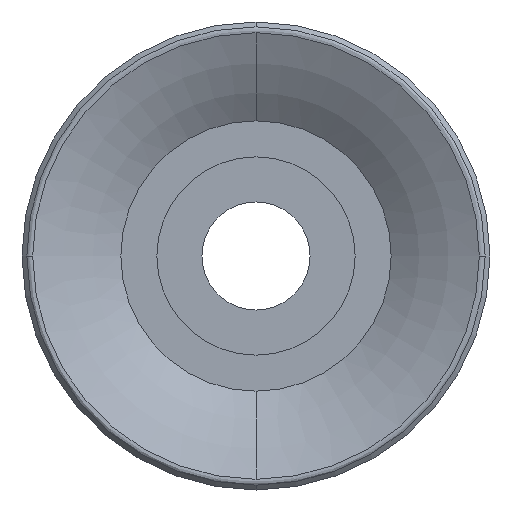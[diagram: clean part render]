
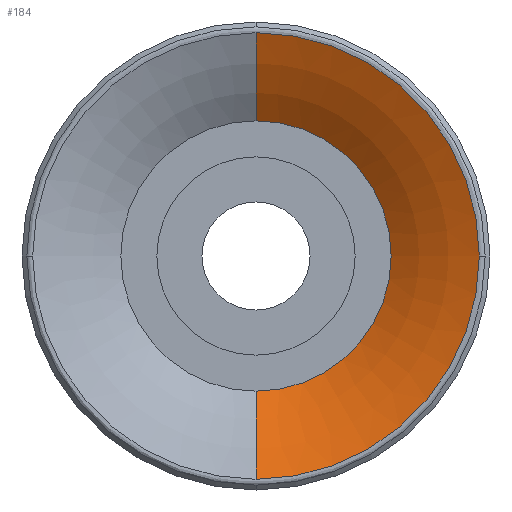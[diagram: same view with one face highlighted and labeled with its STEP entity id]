
A CAD part, front view. The second image highlights one B-rep face of the part: STEP entity #184.
In plain terms, the highlighted toroidal (fillet/blend) face has major radius 20.228 mm and minor radius 21 mm.
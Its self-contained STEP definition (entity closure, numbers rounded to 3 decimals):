
#6 = CARTESIAN_POINT ( 'NONE',  ( 0., -13.978, 0. ) ) ;
#21 = DIRECTION ( 'NONE',  ( -1., 0., 0. ) ) ;
#55 = AXIS2_PLACEMENT_3D ( 'NONE', #619, #21, #614 ) ;
#85 = CARTESIAN_POINT ( 'NONE',  ( 0., -11.2, -7.5 ) ) ;
#136 = AXIS2_PLACEMENT_3D ( 'NONE', #179, #559, #847 ) ;
#148 = CIRCLE ( 'NONE', #453, 7.5 ) ;
#165 = FACE_OUTER_BOUND ( 'NONE', #229, .T. ) ;
#179 = CARTESIAN_POINT ( 'NONE',  ( 0., 5.503, -20.228 ) ) ;
#184 = ADVANCED_FACE ( 'NONE', ( #165 ), #918, .T. ) ;
#185 = CARTESIAN_POINT ( 'NONE',  ( 0., -11.2, 7.5 ) ) ;
#216 = ORIENTED_EDGE ( 'NONE', *, *, #870, .T. ) ;
#229 = EDGE_LOOP ( 'NONE', ( #478, #357, #216, #330, #694 ) ) ;
#245 = EDGE_CURVE ( 'NONE', #555, #393, #148, .T. ) ;
#285 = DIRECTION ( 'NONE',  ( 0., 1., 0. ) ) ;
#304 = AXIS2_PLACEMENT_3D ( 'NONE', #346, #351, #355 ) ;
#313 = DIRECTION ( 'NONE',  ( 0., 0., 1. ) ) ;
#330 = ORIENTED_EDGE ( 'NONE', *, *, #761, .T. ) ;
#346 = CARTESIAN_POINT ( 'NONE',  ( 0., -13.978, 0. ) ) ;
#351 = DIRECTION ( 'NONE',  ( 0., -1., 0. ) ) ;
#355 = DIRECTION ( 'NONE',  ( 0., 0., -1. ) ) ;
#357 = ORIENTED_EDGE ( 'NONE', *, *, #678, .T. ) ;
#393 = VERTEX_POINT ( 'NONE', #85 ) ;
#453 = AXIS2_PLACEMENT_3D ( 'NONE', #672, #547, #739 ) ;
#478 = ORIENTED_EDGE ( 'NONE', *, *, #245, .T. ) ;
#510 = AXIS2_PLACEMENT_3D ( 'NONE', #825, #285, #313 ) ;
#547 = DIRECTION ( 'NONE',  ( 0., 1., 0. ) ) ;
#551 = DIRECTION ( 'NONE',  ( 0., -1., 0. ) ) ;
#555 = VERTEX_POINT ( 'NONE', #185 ) ;
#559 = DIRECTION ( 'NONE',  ( 1., 0., 0. ) ) ;
#614 = DIRECTION ( 'NONE',  ( 0., 0., 1. ) ) ;
#619 = CARTESIAN_POINT ( 'NONE',  ( 0., 5.503, 20.228 ) ) ;
#655 = CIRCLE ( 'NONE', #55, 21. ) ;
#672 = CARTESIAN_POINT ( 'NONE',  ( 0., -11.2, 0. ) ) ;
#678 = EDGE_CURVE ( 'NONE', #393, #925, #690, .T. ) ;
#690 = CIRCLE ( 'NONE', #136, 21. ) ;
#694 = ORIENTED_EDGE ( 'NONE', *, *, #731, .F. ) ;
#700 = CARTESIAN_POINT ( 'NONE',  ( 12.388, -13.978, 0. ) ) ;
#718 = CARTESIAN_POINT ( 'NONE',  ( 0., -13.978, 12.388 ) ) ;
#731 = EDGE_CURVE ( 'NONE', #555, #855, #655, .T. ) ;
#736 = VERTEX_POINT ( 'NONE', #700 ) ;
#739 = DIRECTION ( 'NONE',  ( 0., 0., 1. ) ) ;
#761 = EDGE_CURVE ( 'NONE', #736, #855, #881, .T. ) ;
#762 = DIRECTION ( 'NONE',  ( 0., 0., -1. ) ) ;
#798 = AXIS2_PLACEMENT_3D ( 'NONE', #6, #551, #762 ) ;
#799 = CARTESIAN_POINT ( 'NONE',  ( 0., -13.978, -12.388 ) ) ;
#815 = CIRCLE ( 'NONE', #798, 12.388 ) ;
#825 = CARTESIAN_POINT ( 'NONE',  ( 0., 5.503, 0. ) ) ;
#847 = DIRECTION ( 'NONE',  ( 0., 0., -1. ) ) ;
#855 = VERTEX_POINT ( 'NONE', #718 ) ;
#870 = EDGE_CURVE ( 'NONE', #925, #736, #815, .T. ) ;
#881 = CIRCLE ( 'NONE', #304, 12.388 ) ;
#918 = TOROIDAL_SURFACE ( 'NONE', #510, 20.228, 21. ) ;
#925 = VERTEX_POINT ( 'NONE', #799 ) ;
